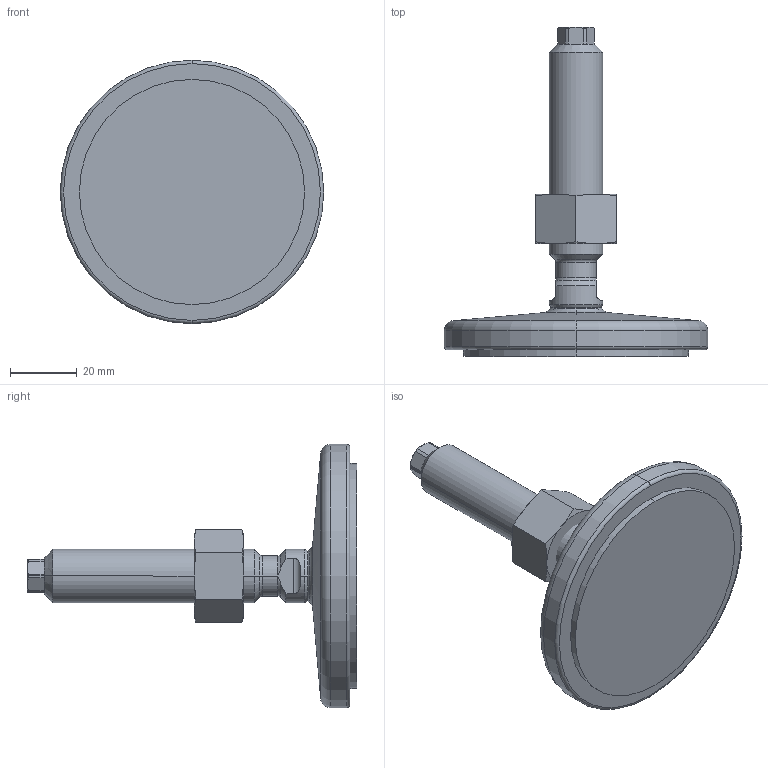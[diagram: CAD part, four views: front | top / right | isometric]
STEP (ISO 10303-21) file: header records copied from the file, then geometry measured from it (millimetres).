
FILE_DESCRIPTION (( 'STEP AP214' ), '1' );
FILE_NAME ('21-80-M16-75-D1-VK.step', '2020-10-02T17:36:26', ( '' ), ( '' ), 'SwSTEP 2.0', 'SolidWorks 2019', '' );
FILE_SCHEMA (( 'AUTOMOTIVE_DESIGN' ));
Length unit declared in the file: millimetre
Products named in the file (4): WB21_Fußteller 21^WB21_V_D1-080-R10-B7 (M8 M10_M12_M16); WB4032^WB21_V_M16; WB21_Spindel_V^WB21_V_M16-75; 21-80-M16-75-D1-VK
Assembly tree (3 placements, depth 2):
  21-80-M16-75-D1-VK
    WB21_Fußteller 21^WB21_V_D1-080-R10-B7 (M8 M10_M12_M16)
    WB21_Spindel_V^WB21_V_M16-75
    WB4032^WB21_V_M16
Bounding box: 79 x 98.64 x 79 mm (x, y, z)
Volume: 74683.5 mm3; surface area: 19312.2 mm2
Topology: 3 solids, 3 shells, 98 faces, 219 edges, 129 vertices
Faces by surface type: cone 29, plane 28, cylinder 27, torus 10, sphere 4
Entity records: 3121 total; most frequent: CARTESIAN_POINT 728, DIRECTION 476, ORIENTED_EDGE 438, EDGE_CURVE 219, AXIS2_PLACEMENT_3D 205, VERTEX_POINT 129, EDGE_LOOP 102, CIRCLE 101
